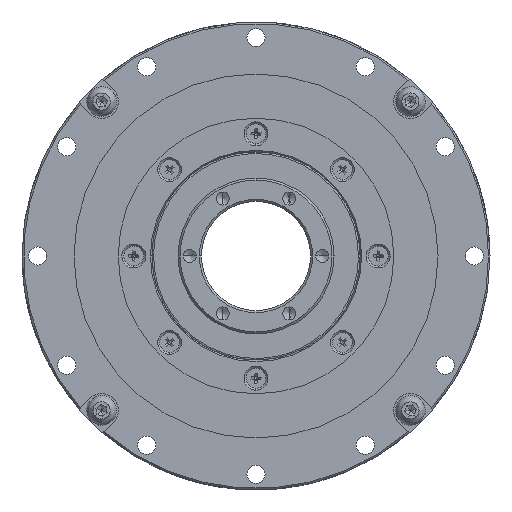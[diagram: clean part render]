
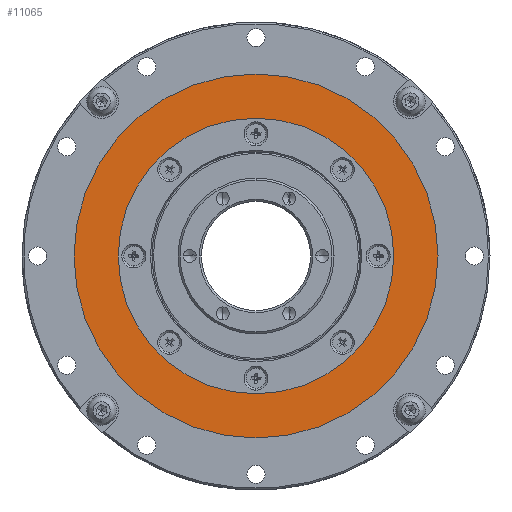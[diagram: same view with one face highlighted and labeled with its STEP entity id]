
A CAD part, left-side view. The second image highlights one B-rep face of the part: STEP entity #11065.
In plain terms, the highlighted planar face has unit normal (-1, 0, 0).
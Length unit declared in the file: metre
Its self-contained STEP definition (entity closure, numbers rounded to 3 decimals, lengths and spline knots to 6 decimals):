
#226 = EDGE_LOOP ( 'NONE', ( #13120, #73167 ) ) ;
#604 = CARTESIAN_POINT ( 'NONE',  ( 0.002, 0., 0. ) ) ;
#1945 = DIRECTION ( 'NONE',  ( 0., 1., 0. ) ) ;
#4215 = FACE_BOUND ( 'NONE', #21233, .T. ) ;
#5426 = CIRCLE ( 'NONE', #24754, 0.0265 ) ;
#5493 = EDGE_CURVE ( 'NONE', #63505, #8093, #12443, .T. ) ;
#6914 = DIRECTION ( 'NONE',  ( 0., 1., 0. ) ) ;
#7245 = ORIENTED_EDGE ( 'NONE', *, *, #64341, .F. ) ;
#7834 = VERTEX_POINT ( 'NONE', #52843 ) ;
#8093 = VERTEX_POINT ( 'NONE', #42954 ) ;
#11065 = ADVANCED_FACE ( 'NONE', ( #17079, #4215 ), #62145, .F. ) ;
#12443 = CIRCLE ( 'NONE', #58450, 0.035 ) ;
#12583 = DIRECTION ( 'NONE',  ( 1., 0., 0. ) ) ;
#13120 = ORIENTED_EDGE ( 'NONE', *, *, #5493, .F. ) ;
#14544 = DIRECTION ( 'NONE',  ( 0., 1., 0. ) ) ;
#16732 = CIRCLE ( 'NONE', #38482, 0.035 ) ;
#16852 = EDGE_CURVE ( 'NONE', #8093, #63505, #16732, .T. ) ;
#17079 = FACE_OUTER_BOUND ( 'NONE', #226, .T. ) ;
#20300 = AXIS2_PLACEMENT_3D ( 'NONE', #56457, #45834, #27326 ) ;
#21233 = EDGE_LOOP ( 'NONE', ( #61651, #7245 ) ) ;
#21648 = EDGE_CURVE ( 'NONE', #7834, #31640, #41487, .T. ) ;
#23988 = CARTESIAN_POINT ( 'NONE',  ( 0.002, 0., 0. ) ) ;
#24754 = AXIS2_PLACEMENT_3D ( 'NONE', #38294, #53799, #1945 ) ;
#25914 = DIRECTION ( 'NONE',  ( -1., 0., 0. ) ) ;
#27326 = DIRECTION ( 'NONE',  ( 0., -1., 0. ) ) ;
#31640 = VERTEX_POINT ( 'NONE', #43475 ) ;
#38294 = CARTESIAN_POINT ( 'NONE',  ( 0.002, 0., 0. ) ) ;
#38482 = AXIS2_PLACEMENT_3D ( 'NONE', #604, #44950, #62363 ) ;
#41487 = CIRCLE ( 'NONE', #46380, 0.0265 ) ;
#42954 = CARTESIAN_POINT ( 'NONE',  ( 0.002, -0.035, 0. ) ) ;
#43317 = CARTESIAN_POINT ( 'NONE',  ( 0.002, 0., 0. ) ) ;
#43390 = CARTESIAN_POINT ( 'NONE',  ( 0.002, 0.035, 0. ) ) ;
#43475 = CARTESIAN_POINT ( 'NONE',  ( 0.002, -0.0265, 0. ) ) ;
#44950 = DIRECTION ( 'NONE',  ( 1., 0., 0. ) ) ;
#45834 = DIRECTION ( 'NONE',  ( 1., 0., 0. ) ) ;
#46380 = AXIS2_PLACEMENT_3D ( 'NONE', #43317, #25914, #14544 ) ;
#52843 = CARTESIAN_POINT ( 'NONE',  ( 0.002, 0.0265, 0. ) ) ;
#53799 = DIRECTION ( 'NONE',  ( -1., 0., 0. ) ) ;
#56457 = CARTESIAN_POINT ( 'NONE',  ( 0.002, -0.035, 0. ) ) ;
#58450 = AXIS2_PLACEMENT_3D ( 'NONE', #23988, #12583, #6914 ) ;
#61651 = ORIENTED_EDGE ( 'NONE', *, *, #21648, .F. ) ;
#62145 = PLANE ( 'NONE',  #20300 ) ;
#62363 = DIRECTION ( 'NONE',  ( 0., 1., 0. ) ) ;
#63505 = VERTEX_POINT ( 'NONE', #43390 ) ;
#64341 = EDGE_CURVE ( 'NONE', #31640, #7834, #5426, .T. ) ;
#73167 = ORIENTED_EDGE ( 'NONE', *, *, #16852, .F. ) ;
